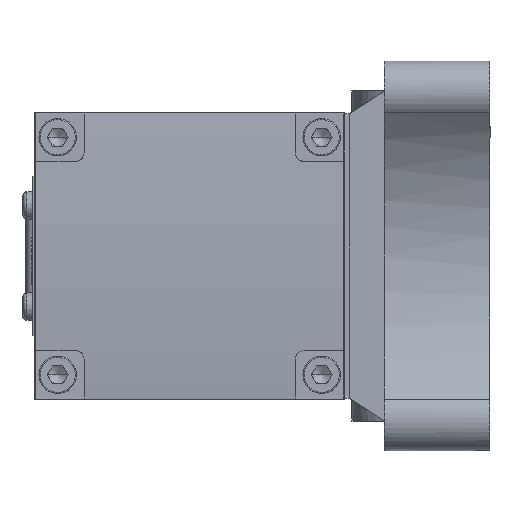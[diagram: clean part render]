
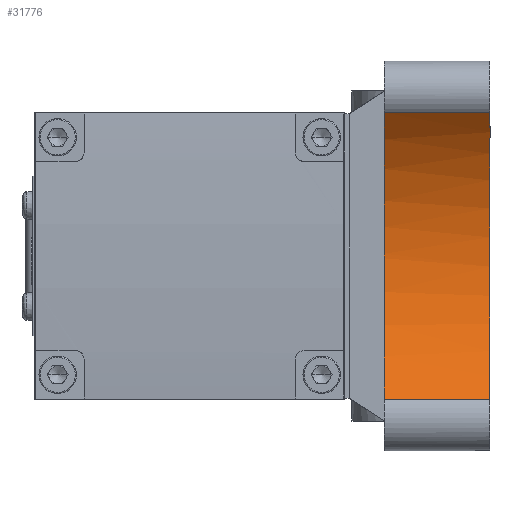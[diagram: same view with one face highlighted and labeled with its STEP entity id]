
A CAD part, left-side view. The second image highlights one B-rep face of the part: STEP entity #31776.
In plain terms, the highlighted cylindrical face has radius 48.5 mm (diameter 97 mm), a partial arc.
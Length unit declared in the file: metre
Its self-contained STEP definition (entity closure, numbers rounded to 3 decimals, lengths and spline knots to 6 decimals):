
#210 = CARTESIAN_POINT ( 'NONE',  ( -0.044996, -0.008, 0.00018 ) ) ;
#281 = CARTESIAN_POINT ( 'NONE',  ( -0.045, -0.008, 0.000541 ) ) ;
#410 = CARTESIAN_POINT ( 'NONE',  ( -0.044996, -0.008, -0.00018 ) ) ;
#438 = CARTESIAN_POINT ( 'NONE',  ( -0.04718, -0.032, -0.014692 ) ) ;
#462 = CARTESIAN_POINT ( 'NONE',  ( -0.045, -0.008, -0.000541 ) ) ;
#1402 = CARTESIAN_POINT ( 'NONE',  ( -0.057583, -0.032, 0.032596 ) ) ;
#1447 = LINE ( 'NONE', #3405, #29257 ) ;
#1538 = VERTEX_POINT ( 'NONE', #2710 ) ;
#1632 = CARTESIAN_POINT ( 'NONE',  ( -0.045, -0.008, -0.000541 ) ) ;
#2710 = CARTESIAN_POINT ( 'NONE',  ( -0.045, -0.008, 0.000541 ) ) ;
#3141 = CARTESIAN_POINT ( 'NONE',  ( -0.045272, -0.032, -0.005957 ) ) ;
#3405 = CARTESIAN_POINT ( 'NONE',  ( -0.057583, -0.02, 0.032596 ) ) ;
#3438 = CARTESIAN_POINT ( 'NONE',  ( -0.045, -0.008, -0.000541 ) ) ;
#4102 = ORIENTED_EDGE ( 'NONE', *, *, #17777, .T. ) ;
#4412 = DIRECTION ( 'NONE',  ( 0., 1., 0. ) ) ;
#5842 = CARTESIAN_POINT ( 'NONE',  ( -0.044997, -0.032, 0.002979 ) ) ;
#5994 = CARTESIAN_POINT ( 'NONE',  ( -0.093497, -0.032, 0. ) ) ;
#6228 = CARTESIAN_POINT ( 'NONE',  ( -0.045332, -0.008, -0.006405 ) ) ;
#6737 = B_SPLINE_CURVE_WITH_KNOTS ( 'NONE', 3,
 ( #20880, #21271, #21763, #21575, #21805, #21882, #21956, #22009, #21933, #22087 ),
 .UNSPECIFIED., .F., .F.,
 ( 4, 2, 2, 2, 4 ),
 ( 0., 0.25, 0.5, 0.75, 1. ),
 .UNSPECIFIED. ) ;
#7472 = VERTEX_POINT ( 'NONE', #1632 ) ;
#8488 = CARTESIAN_POINT ( 'NONE',  ( -0.055582, -0.032, -0.03039 ) ) ;
#8617 = CARTESIAN_POINT ( 'NONE',  ( -0.046364, -0.032, 0.011814 ) ) ;
#8999 = VECTOR ( 'NONE', #11052, 1. ) ;
#9029 = CARTESIAN_POINT ( 'NONE',  ( -0.047279, -0.008, -0.014992 ) ) ;
#10924 = EDGE_CURVE ( 'NONE', #1538, #7472, #30641, .T. ) ;
#10995 = VERTEX_POINT ( 'NONE', #1402 ) ;
#11052 = DIRECTION ( 'NONE',  ( 0., -1., 0. ) ) ;
#11329 = CARTESIAN_POINT ( 'NONE',  ( -0.049326, -0.032, 0.020249 ) ) ;
#11476 = DIRECTION ( 'NONE',  ( 0., 0., 1. ) ) ;
#11720 = CARTESIAN_POINT ( 'NONE',  ( -0.050743, -0.008, -0.023087 ) ) ;
#13874 = CARTESIAN_POINT ( 'NONE',  ( -0.057583, -0.008, 0.032596 ) ) ;
#13936 = CARTESIAN_POINT ( 'NONE',  ( -0.053783, -0.032, -0.027999 ) ) ;
#14066 = CARTESIAN_POINT ( 'NONE',  ( -0.053783, -0.032, 0.027999 ) ) ;
#14315 = VERTEX_POINT ( 'NONE', #22608 ) ;
#14472 = CARTESIAN_POINT ( 'NONE',  ( -0.055612, -0.008, -0.030423 ) ) ;
#14857 = EDGE_CURVE ( 'NONE', #10995, #16438, #1447, .T. ) ;
#14985 = CYLINDRICAL_SURFACE ( 'NONE', #23527, 0.0485 ) ;
#15275 = ORIENTED_EDGE ( 'NONE', *, *, #25631, .T. ) ;
#15649 = B_SPLINE_CURVE_WITH_KNOTS ( 'NONE', 3,
 ( #19030, #8488, #13936, #32630, #16671, #438, #19375, #3141, #22067, #5842, #24753, #8617, #27472, #11329, #30136, #14066, #32743, #16791 ),
 .UNSPECIFIED., .F., .F.,
 ( 4, 2, 2, 2, 2, 2, 2, 2, 4 ),
 ( 0., 0.125, 0.25, 0.375, 0.5, 0.625, 0.75, 0.875, 1. ),
 .UNSPECIFIED. ) ;
#16182 = LINE ( 'NONE', #29254, #8999 ) ;
#16438 = VERTEX_POINT ( 'NONE', #13874 ) ;
#16671 = CARTESIAN_POINT ( 'NONE',  ( -0.049326, -0.032, -0.020249 ) ) ;
#16784 = ORIENTED_EDGE ( 'NONE', *, *, #24325, .T. ) ;
#16791 = CARTESIAN_POINT ( 'NONE',  ( -0.057583, -0.032, 0.032596 ) ) ;
#17777 = EDGE_CURVE ( 'NONE', #16438, #1538, #6737, .T. ) ;
#18727 = ORIENTED_EDGE ( 'NONE', *, *, #24930, .T. ) ;
#19030 = CARTESIAN_POINT ( 'NONE',  ( -0.057583, -0.032, -0.032596 ) ) ;
#19375 = CARTESIAN_POINT ( 'NONE',  ( -0.046364, -0.032, -0.011814 ) ) ;
#19653 = EDGE_LOOP ( 'NONE', ( #4102, #22622, #15275, #18727, #16784, #30233 ) ) ;
#20242 = B_SPLINE_CURVE_WITH_KNOTS ( 'NONE', 3,
 ( #3438, #25049, #6228, #25171, #9029, #27852, #11720, #30522, #14472, #33117 ),
 .UNSPECIFIED., .F., .F.,
 ( 4, 2, 2, 2, 4 ),
 ( 0., 0.25, 0.5, 0.75, 1. ),
 .UNSPECIFIED. ) ;
#20880 = CARTESIAN_POINT ( 'NONE',  ( -0.057583, -0.008, 0.032596 ) ) ;
#21271 = CARTESIAN_POINT ( 'NONE',  ( -0.055612, -0.008, 0.030423 ) ) ;
#21575 = CARTESIAN_POINT ( 'NONE',  ( -0.050743, -0.008, 0.023087 ) ) ;
#21763 = CARTESIAN_POINT ( 'NONE',  ( -0.053838, -0.008, 0.028072 ) ) ;
#21805 = CARTESIAN_POINT ( 'NONE',  ( -0.049423, -0.008, 0.020453 ) ) ;
#21882 = CARTESIAN_POINT ( 'NONE',  ( -0.047279, -0.008, 0.014992 ) ) ;
#21933 = CARTESIAN_POINT ( 'NONE',  ( -0.045033, -0.008, 0.003474 ) ) ;
#21956 = CARTESIAN_POINT ( 'NONE',  ( -0.046455, -0.008, 0.012164 ) ) ;
#22009 = CARTESIAN_POINT ( 'NONE',  ( -0.045332, -0.008, 0.006405 ) ) ;
#22067 = CARTESIAN_POINT ( 'NONE',  ( -0.044997, -0.032, -0.002979 ) ) ;
#22087 = CARTESIAN_POINT ( 'NONE',  ( -0.045, -0.008, 0.000541 ) ) ;
#22608 = CARTESIAN_POINT ( 'NONE',  ( -0.057583, -0.008, -0.032596 ) ) ;
#22622 = ORIENTED_EDGE ( 'NONE', *, *, #10924, .T. ) ;
#23527 = AXIS2_PLACEMENT_3D ( 'NONE', #5994, #27607, #11476 ) ;
#24325 = EDGE_CURVE ( 'NONE', #30809, #10995, #15649, .T. ) ;
#24753 = CARTESIAN_POINT ( 'NONE',  ( -0.045272, -0.032, 0.005957 ) ) ;
#24930 = EDGE_CURVE ( 'NONE', #14315, #30809, #16182, .T. ) ;
#25049 = CARTESIAN_POINT ( 'NONE',  ( -0.045033, -0.008, -0.003474 ) ) ;
#25171 = CARTESIAN_POINT ( 'NONE',  ( -0.046455, -0.008, -0.012164 ) ) ;
#25631 = EDGE_CURVE ( 'NONE', #7472, #14315, #20242, .T. ) ;
#27472 = CARTESIAN_POINT ( 'NONE',  ( -0.04718, -0.032, 0.014692 ) ) ;
#27607 = DIRECTION ( 'NONE',  ( 0., 1., 0. ) ) ;
#27852 = CARTESIAN_POINT ( 'NONE',  ( -0.049423, -0.008, -0.020453 ) ) ;
#28704 = CARTESIAN_POINT ( 'NONE',  ( -0.057583, -0.032, -0.032596 ) ) ;
#29254 = CARTESIAN_POINT ( 'NONE',  ( -0.057583, -0.02, -0.032596 ) ) ;
#29257 = VECTOR ( 'NONE', #4412, 1. ) ;
#30136 = CARTESIAN_POINT ( 'NONE',  ( -0.050656, -0.032, 0.022929 ) ) ;
#30233 = ORIENTED_EDGE ( 'NONE', *, *, #14857, .T. ) ;
#30522 = CARTESIAN_POINT ( 'NONE',  ( -0.053838, -0.008, -0.028072 ) ) ;
#30641 = B_SPLINE_CURVE_WITH_KNOTS ( 'NONE', 3,
 ( #281, #210, #410, #462 ),
 .UNSPECIFIED., .F., .F.,
 ( 4, 4 ),
 ( 0., 1. ),
 .UNSPECIFIED. ) ;
#30809 = VERTEX_POINT ( 'NONE', #28704 ) ;
#30914 = FACE_OUTER_BOUND ( 'NONE', #19653, .T. ) ;
#31776 = ADVANCED_FACE ( 'NONE', ( #30914 ), #14985, .F. ) ;
#32630 = CARTESIAN_POINT ( 'NONE',  ( -0.050656, -0.032, -0.022929 ) ) ;
#32743 = CARTESIAN_POINT ( 'NONE',  ( -0.055582, -0.032, 0.03039 ) ) ;
#33117 = CARTESIAN_POINT ( 'NONE',  ( -0.057583, -0.008, -0.032596 ) ) ;
